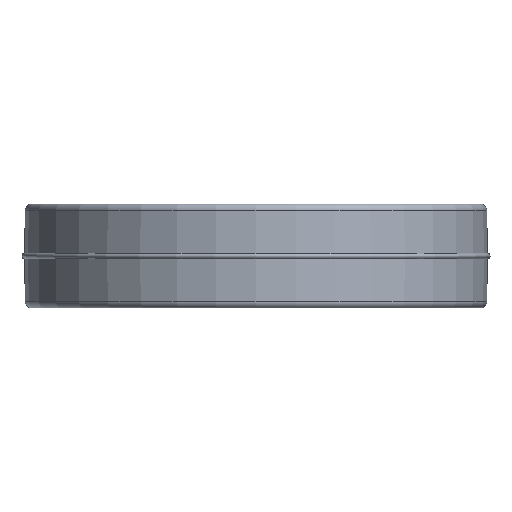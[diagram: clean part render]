
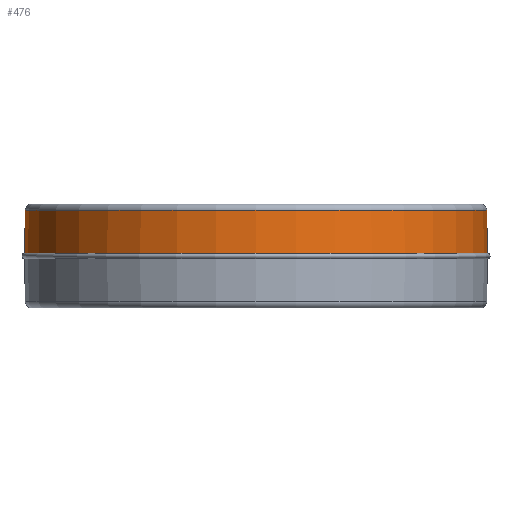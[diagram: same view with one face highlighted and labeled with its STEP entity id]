
A CAD part, front view. The second image highlights one B-rep face of the part: STEP entity #476.
In plain terms, the highlighted conical face has half-angle 0.633 degrees and reference radius 84.825 mm.
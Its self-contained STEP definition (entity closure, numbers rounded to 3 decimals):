
#28 = ORIENTED_EDGE ( 'NONE', *, *, #302, .T. ) ;
#62 = AXIS2_PLACEMENT_3D ( 'NONE', #814, #539, #762 ) ;
#66 = LINE ( 'NONE', #339, #259 ) ;
#79 = EDGE_CURVE ( 'NONE', #564, #101, #125, .T. ) ;
#101 = VERTEX_POINT ( 'NONE', #133 ) ;
#105 = CIRCLE ( 'NONE', #62, 84.825 ) ;
#106 = DIRECTION ( 'NONE',  ( 0., 0., -1. ) ) ;
#125 = LINE ( 'NONE', #736, #756 ) ;
#133 = CARTESIAN_POINT ( 'NONE',  ( 85., 0., -15.85 ) ) ;
#158 = DIRECTION ( 'NONE',  ( -1., 0., 0. ) ) ;
#196 = DIRECTION ( 'NONE',  ( 0.011, 0., -1. ) ) ;
#259 = VECTOR ( 'NONE', #603, 1000. ) ;
#262 = EDGE_CURVE ( 'NONE', #564, #549, #105, .T. ) ;
#272 = EDGE_LOOP ( 'NONE', ( #380, #481, #28, #855 ) ) ;
#302 = EDGE_CURVE ( 'NONE', #101, #714, #553, .T. ) ;
#304 = AXIS2_PLACEMENT_3D ( 'NONE', #420, #696, #681 ) ;
#339 = CARTESIAN_POINT ( 'NONE',  ( -84.825, 0., 0.025 ) ) ;
#373 = CARTESIAN_POINT ( 'NONE',  ( 0., 0., 0.025 ) ) ;
#380 = ORIENTED_EDGE ( 'NONE', *, *, #262, .F. ) ;
#420 = CARTESIAN_POINT ( 'NONE',  ( 0., 0., -15.85 ) ) ;
#439 = FACE_OUTER_BOUND ( 'NONE', #272, .T. ) ;
#454 = CARTESIAN_POINT ( 'NONE',  ( 84.825, 0., 0.025 ) ) ;
#456 = AXIS2_PLACEMENT_3D ( 'NONE', #373, #106, #158 ) ;
#476 = ADVANCED_FACE ( 'NONE', ( #439 ), #833, .T. ) ;
#481 = ORIENTED_EDGE ( 'NONE', *, *, #79, .T. ) ;
#485 = CARTESIAN_POINT ( 'NONE',  ( -85., 0., -15.85 ) ) ;
#539 = DIRECTION ( 'NONE',  ( 0., 0., 1. ) ) ;
#549 = VERTEX_POINT ( 'NONE', #799 ) ;
#553 = CIRCLE ( 'NONE', #304, 85. ) ;
#564 = VERTEX_POINT ( 'NONE', #454 ) ;
#603 = DIRECTION ( 'NONE',  ( -0.011, 0., -1. ) ) ;
#681 = DIRECTION ( 'NONE',  ( 1., 0., 0. ) ) ;
#696 = DIRECTION ( 'NONE',  ( 0., 0., 1. ) ) ;
#714 = VERTEX_POINT ( 'NONE', #485 ) ;
#736 = CARTESIAN_POINT ( 'NONE',  ( 84.825, 0., 0.025 ) ) ;
#756 = VECTOR ( 'NONE', #196, 1000. ) ;
#762 = DIRECTION ( 'NONE',  ( 1., 0., 0. ) ) ;
#799 = CARTESIAN_POINT ( 'NONE',  ( -84.825, 0., 0.025 ) ) ;
#813 = EDGE_CURVE ( 'NONE', #549, #714, #66, .T. ) ;
#814 = CARTESIAN_POINT ( 'NONE',  ( 0., 0., 0.025 ) ) ;
#833 = CONICAL_SURFACE ( 'NONE', #456, 84.825, 0.011 ) ;
#855 = ORIENTED_EDGE ( 'NONE', *, *, #813, .F. ) ;
